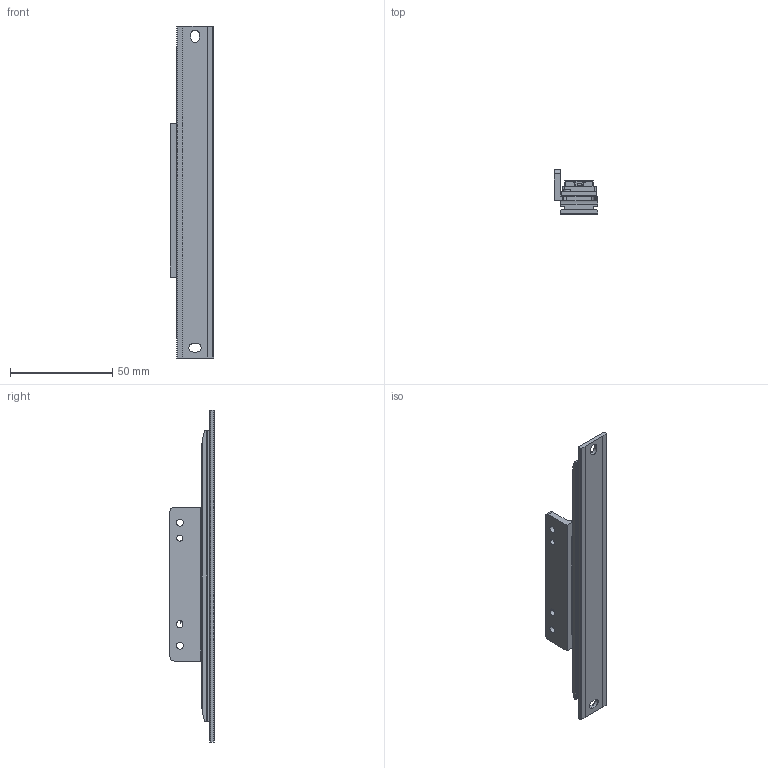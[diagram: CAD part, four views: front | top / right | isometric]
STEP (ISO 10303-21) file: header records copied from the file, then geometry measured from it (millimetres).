
FILE_DESCRIPTION (( 'STEP AP203' ), '1' );
FILE_NAME ('Kotnik+SAS19.STEP', '2025-07-14T08:54:12', ( '' ), ( '' ), 'SwSTEP 2.0', 'SolidWorks 2024', '' );
FILE_SCHEMA (( 'CONFIG_CONTROL_DESIGN' ));
Length unit declared in the file: millimetre
Products named in the file (1): Kotnik+SAS19
Bounding box: 21 x 21.49 x 162 mm (x, y, z)
Surface area: 17926.7 mm2 (no closed solid volume)
Topology: 0 solids, 90 shells, 1682 faces, 4312 edges, 2854 vertices
Faces by surface type: plane 1325, cylinder 162, bspline 137, torus 42, cone 12, sphere 4
Entity records: 57588 total; most frequent: CARTESIAN_POINT 18218, ORIENTED_EDGE 8478, DIRECTION 7123, EDGE_CURVE 4307, VECTOR 3191, LINE 3191, VERTEX_POINT 2854, AXIS2_PLACEMENT_3D 1966
